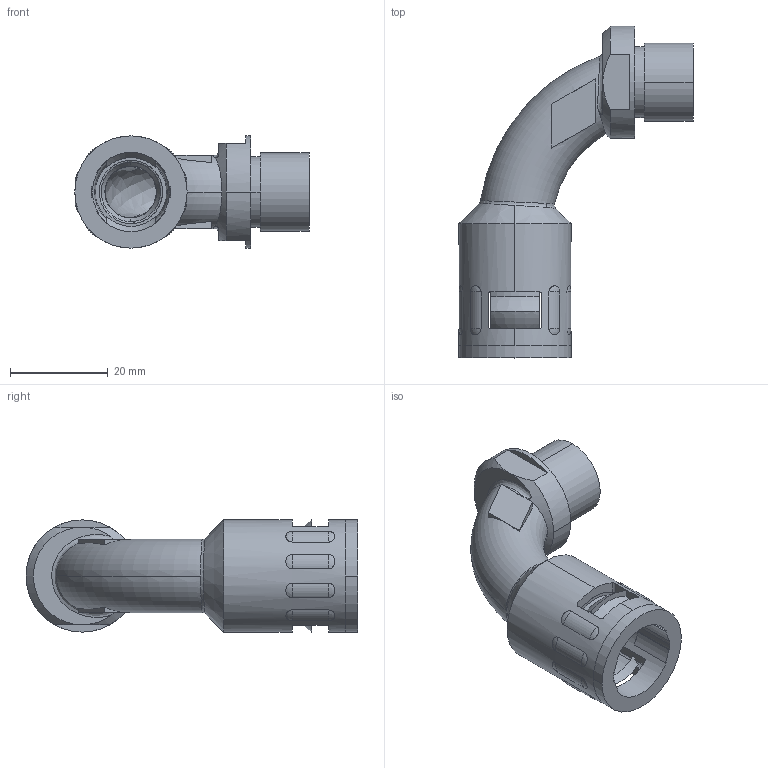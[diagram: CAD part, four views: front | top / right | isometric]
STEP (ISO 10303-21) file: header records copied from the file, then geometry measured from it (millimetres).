
FILE_DESCRIPTION (( 'STEP AP203' ), '1' );
FILE_NAME ('WQBW-M16-AD15.8.STEP', '2020-03-18T03:06:30', ( '' ), ( '' ), 'SwSTEP 2.0', 'SolidWorks 2016', '' );
FILE_SCHEMA (( 'CONFIG_CONTROL_DESIGN' ));
Length unit declared in the file: millimetre
Products named in the file (4): WQBW-M16-AD15.8; NSK-AD15.8; GFD-AD15.8
Assembly tree (3 placements, depth 2):
  WQBW-M16-AD15.8
    WQBW-M16-AD15.8
    GFD-AD15.8
    NSK-AD15.8
Bounding box: 48 x 68 x 23 mm (x, y, z)
Volume: 12093.6 mm3; surface area: 12080.4 mm2
Topology: 3 solids, 3 shells, 208 faces, 548 edges, 342 vertices
Faces by surface type: plane 73, cone 52, cylinder 38, torus 18, sphere 16, bspline 11
Entity records: 10004 total; most frequent: CARTESIAN_POINT 4713, ORIENTED_EDGE 1032, DIRECTION 1012, EDGE_CURVE 516, AXIS2_PLACEMENT_3D 404, VERTEX_POINT 326, EDGE_LOOP 234, FACE_OUTER_BOUND 208
